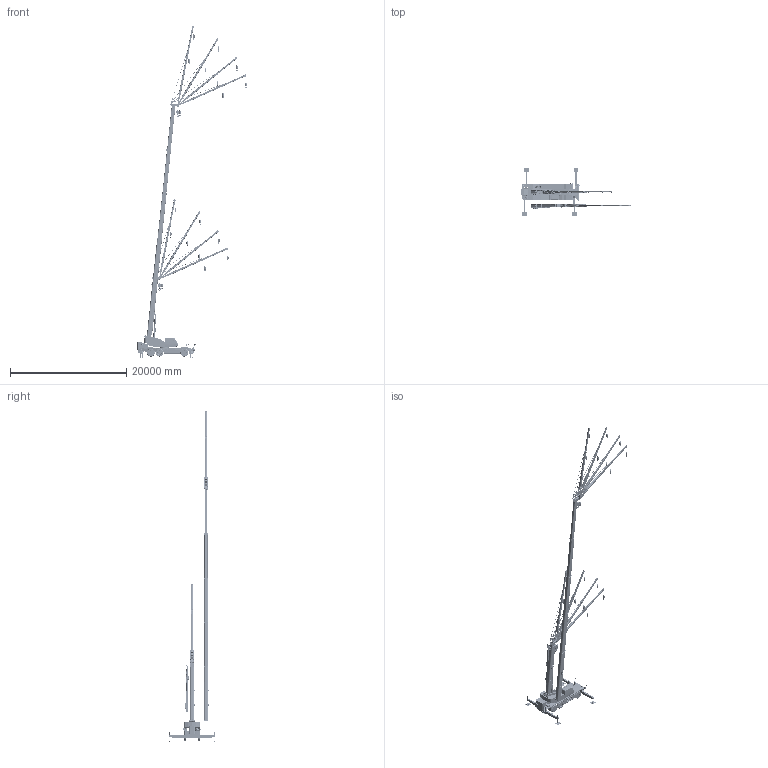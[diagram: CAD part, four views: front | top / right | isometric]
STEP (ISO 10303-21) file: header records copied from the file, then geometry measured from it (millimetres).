
FILE_DESCRIPTION(('CATIA V5 STEP Exchange','CAx-IF Rec.Pracs.--- Model Styling and Organization---1.4--- 2014-01-23'),'2;1');
FILE_NAME('\\Iba001\cad\CR\HP用CADデータ\11A\SL-500RfⅢ\3D\完成データ\SL-500Rf3 3D.stp','2024-06-24T22:41:43+00:00',('none'),('none'),'CATIA Version 5-6 Release 2017 SP5 HF78','CATIA V5 STEP AP214','none');
FILE_SCHEMA(('AUTOMOTIVE_DESIGN { 1 0 10303 214 1 1 1 1 }'));
Products named in the file (45): SL-500Rf3 3D; SL-500Rf3 UPPER; SL-500Rf3 UPPER STRUCTURE; SL-500Rf3 TABLE; SL-500Rf3 CAB; SL-500Rf3 MACHINE ROOM; SL-500Rf3 DERRICK CYLINDER-1; SL-500Rf3 DERRICK CYLINDER-2; SL-500Rf3 BOOM JIB Min; SL-500Rf3 BOOM Min; SL-500Rf3 BOOM1; SL-500Rf3 BOOM2; SL-500Rf3 BOOM3; SL-500Rf3 BOOM4; SL-500Rf3 BOOM5; SL-500Rf3 JIB; SL-500Rf3 JIB 9.4m 5deg; SL-500Rf3 JIB1; SL-500Rf3 JIB2; SL-500Rf3 JIB3; SL-500Rf3 JIB TENSION ROD; SL-500Rf3 JIB 9.4m 25deg; SL-500Rf3 JIB 9.4m 45deg; SL-500Rf3 JIB 9.4m 60deg; SL-500Rf3 JIB 13.7m 5deg; SL-500Rf3 JIB 13.7m 25deg; SL-500Rf3 JIB 13.7m 45deg; SL-500Rf3 JIB 13.7m 60deg; SL-500Rf3 JIB Stowed; SL-500Rf3 JIB TENSION ROD Stowed; SL-500Rf3 HOOK 5.6t; SL-500Rf3 HOOK 34t; SL-500Rf3 HOOK 50t; SL-500Rf3 BOOM JIB Max; SL-500Rf3 BOOM Max; SL-500Rf3 CARRIER; SL-500Rf3 CHASSIS; SL-500Rf3 OUTRIGGER; SL-500Rf3 BEAM F-L; SL-500Rf3 BEAM OUTER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
Assembly tree (108 placements, depth 6):
  SL-500Rf3 3D
    SL-500Rf3 UPPER
      SL-500Rf3 UPPER STRUCTURE
        SL-500Rf3 TABLE
        SL-500Rf3 CAB
        SL-500Rf3 MACHINE ROOM
        SL-500Rf3 DERRICK CYLINDER-1
        SL-500Rf3 DERRICK CYLINDER-2
      SL-500Rf3 BOOM JIB Min
        SL-500Rf3 BOOM Min
          SL-500Rf3 BOOM1
          SL-500Rf3 BOOM2
          SL-500Rf3 BOOM3
          SL-500Rf3 BOOM4
          SL-500Rf3 BOOM5
        SL-500Rf3 JIB
          SL-500Rf3 JIB 9.4m 5deg
            SL-500Rf3 JIB1
            SL-500Rf3 JIB2
            SL-500Rf3 JIB3
            SL-500Rf3 JIB TENSION ROD
          SL-500Rf3 JIB 9.4m 25deg
            SL-500Rf3 JIB1
            SL-500Rf3 JIB2
            SL-500Rf3 JIB3
            SL-500Rf3 JIB TENSION ROD
          SL-500Rf3 JIB 9.4m 45deg
            SL-500Rf3 JIB1
            SL-500Rf3 JIB2
            SL-500Rf3 JIB3
            SL-500Rf3 JIB TENSION ROD
          SL-500Rf3 JIB 9.4m 60deg
            SL-500Rf3 JIB1
            SL-500Rf3 JIB2
            SL-500Rf3 JIB3
            SL-500Rf3 JIB TENSION ROD
          SL-500Rf3 JIB 13.7m 5deg
            SL-500Rf3 JIB1
            SL-500Rf3 JIB2
            SL-500Rf3 JIB3
            SL-500Rf3 JIB TENSION ROD
          SL-500Rf3 JIB 13.7m 25deg
            SL-500Rf3 JIB1
            SL-500Rf3 JIB2
            SL-500Rf3 JIB3
            SL-500Rf3 JIB TENSION ROD
          SL-500Rf3 JIB 13.7m 45deg
            SL-500Rf3 JIB1
            SL-500Rf3 JIB2
            SL-500Rf3 JIB3
            SL-500Rf3 JIB TENSION ROD
          SL-500Rf3 JIB 13.7m 60deg
            SL-500Rf3 JIB1
            SL-500Rf3 JIB2
            SL-500Rf3 JIB3
            SL-500Rf3 JIB TENSION ROD
        SL-500Rf3 JIB Stowed
          SL-500Rf3 JIB1
          SL-500Rf3 JIB2
          SL-500Rf3 JIB3
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Bounding box: 18792.14 x 8400 x 57020.33 mm (x, y, z)
Volume: 86956935626.6 mm3; surface area: 913008684.6 mm2
Topology: 277 solids, 277 shells, 14126 faces, 38077 edges, 24833 vertices
Faces by surface type: plane 8906, cylinder 3428, torus 879, extrusion 557, bspline 233, cone 105, sphere 16, revolution 2
Entity records: 153776 total; most frequent: CARTESIAN_POINT 55730, ORIENTED_EDGE 22630, DIRECTION 15109, EDGE_CURVE 11315, VERTEX_POINT 7385, VECTOR 7283, LINE 6866, AXIS2_PLACEMENT_3D 4960
